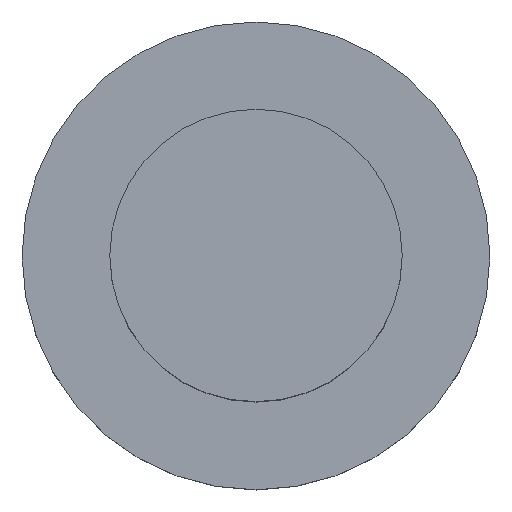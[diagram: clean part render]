
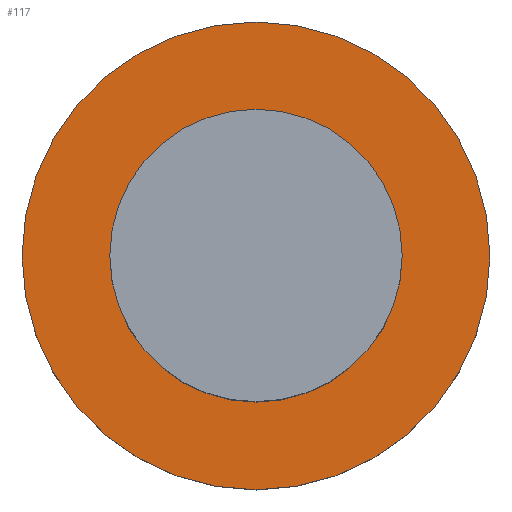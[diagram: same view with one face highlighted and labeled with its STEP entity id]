
A CAD part, top view. The second image highlights one B-rep face of the part: STEP entity #117.
In plain terms, the highlighted planar face has unit normal (0, 0, 1).
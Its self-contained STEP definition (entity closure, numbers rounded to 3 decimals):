
#24 = VERTEX_POINT('',#25);
#25 = CARTESIAN_POINT('',(-2.4,-65.,0.));
#32 = CYLINDRICAL_SURFACE('',#33,2.4);
#33 = AXIS2_PLACEMENT_3D('',#34,#35,#36);
#34 = CARTESIAN_POINT('',(0.,-65.,-0.8));
#35 = DIRECTION('',(0.,-0.,-1.));
#36 = DIRECTION('',(-1.,-0.,-0.));
#51 = EDGE_CURVE('',#24,#24,#52,.T.);
#52 = SURFACE_CURVE('',#53,(#58,#65),.PCURVE_S1.);
#53 = CIRCLE('',#54,2.4);
#54 = AXIS2_PLACEMENT_3D('',#55,#56,#57);
#55 = CARTESIAN_POINT('',(0.,-65.,0.));
#56 = DIRECTION('',(0.,0.,-1.));
#57 = DIRECTION('',(-1.,-0.,-0.));
#58 = PCURVE('',#32,#59);
#59 = DEFINITIONAL_REPRESENTATION('',(#60),#64);
#60 = LINE('',#61,#62);
#61 = CARTESIAN_POINT('',(0.,-0.8));
#62 = VECTOR('',#63,1.);
#63 = DIRECTION('',(1.,0.));
#64 = ( GEOMETRIC_REPRESENTATION_CONTEXT(2) 
PARAMETRIC_REPRESENTATION_CONTEXT() REPRESENTATION_CONTEXT('2D SPACE',''
  ) );
#65 = PCURVE('',#66,#71);
#66 = PLANE('',#67);
#67 = AXIS2_PLACEMENT_3D('',#68,#69,#70);
#68 = CARTESIAN_POINT('',(0.,-65.,0.));
#69 = DIRECTION('',(-0.,-0.,1.));
#70 = DIRECTION('',(1.,0.,0.));
#71 = DEFINITIONAL_REPRESENTATION('',(#72),#80);
#72 = ( BOUNDED_CURVE() B_SPLINE_CURVE(2,(#73,#74,#75,#76,#77,#78,#79),
.UNSPECIFIED.,.T.,.F.) B_SPLINE_CURVE_WITH_KNOTS((1,2,2,2,2,1),(
    -2.094,0.,2.094,4.189,6.283,
8.378),.UNSPECIFIED.) CURVE() GEOMETRIC_REPRESENTATION_ITEM() 
RATIONAL_B_SPLINE_CURVE((1.,0.5,1.,0.5,1.,0.5,1.)) REPRESENTATION_ITEM(
  '') );
#73 = CARTESIAN_POINT('',(-2.4,0.));
#74 = CARTESIAN_POINT('',(-2.4,4.157));
#75 = CARTESIAN_POINT('',(1.2,2.078));
#76 = CARTESIAN_POINT('',(4.8,0.));
#77 = CARTESIAN_POINT('',(1.2,-2.078));
#78 = CARTESIAN_POINT('',(-2.4,-4.157));
#79 = CARTESIAN_POINT('',(-2.4,0.));
#80 = ( GEOMETRIC_REPRESENTATION_CONTEXT(2) 
PARAMETRIC_REPRESENTATION_CONTEXT() REPRESENTATION_CONTEXT('2D SPACE',''
  ) );
#117 = ADVANCED_FACE('',(#118,#121),#66,.T.);
#118 = FACE_BOUND('',#119,.F.);
#119 = EDGE_LOOP('',(#120));
#120 = ORIENTED_EDGE('',*,*,#51,.T.);
#121 = FACE_BOUND('',#122,.F.);
#122 = EDGE_LOOP('',(#123));
#123 = ORIENTED_EDGE('',*,*,#124,.F.);
#124 = EDGE_CURVE('',#125,#125,#127,.T.);
#125 = VERTEX_POINT('',#126);
#126 = CARTESIAN_POINT('',(-1.5,-65.,0.));
#127 = SURFACE_CURVE('',#128,(#133,#144),.PCURVE_S1.);
#128 = CIRCLE('',#129,1.5);
#129 = AXIS2_PLACEMENT_3D('',#130,#131,#132);
#130 = CARTESIAN_POINT('',(0.,-65.,0.));
#131 = DIRECTION('',(0.,0.,-1.));
#132 = DIRECTION('',(-1.,-0.,-0.));
#133 = PCURVE('',#66,#134);
#134 = DEFINITIONAL_REPRESENTATION('',(#135),#143);
#135 = ( BOUNDED_CURVE() B_SPLINE_CURVE(2,(#136,#137,#138,#139,#140,#141
,#142),.UNSPECIFIED.,.T.,.F.) B_SPLINE_CURVE_WITH_KNOTS((1,2,2,2,2,1),(
    -2.094,0.,2.094,4.189,6.283,
8.378),.UNSPECIFIED.) CURVE() GEOMETRIC_REPRESENTATION_ITEM() 
RATIONAL_B_SPLINE_CURVE((1.,0.5,1.,0.5,1.,0.5,1.)) REPRESENTATION_ITEM(
  '') );
#136 = CARTESIAN_POINT('',(-1.5,0.));
#137 = CARTESIAN_POINT('',(-1.5,2.598));
#138 = CARTESIAN_POINT('',(0.75,1.299));
#139 = CARTESIAN_POINT('',(3.,0.));
#140 = CARTESIAN_POINT('',(0.75,-1.299));
#141 = CARTESIAN_POINT('',(-1.5,-2.598));
#142 = CARTESIAN_POINT('',(-1.5,0.));
#143 = ( GEOMETRIC_REPRESENTATION_CONTEXT(2) 
PARAMETRIC_REPRESENTATION_CONTEXT() REPRESENTATION_CONTEXT('2D SPACE',''
  ) );
#144 = PCURVE('',#145,#150);
#145 = CYLINDRICAL_SURFACE('',#146,1.5);
#146 = AXIS2_PLACEMENT_3D('',#147,#148,#149);
#147 = CARTESIAN_POINT('',(0.,-65.,0.));
#148 = DIRECTION('',(0.,-0.,-1.));
#149 = DIRECTION('',(-1.,-0.,-0.));
#150 = DEFINITIONAL_REPRESENTATION('',(#151),#155);
#151 = LINE('',#152,#153);
#152 = CARTESIAN_POINT('',(0.,0.));
#153 = VECTOR('',#154,1.);
#154 = DIRECTION('',(1.,0.));
#155 = ( GEOMETRIC_REPRESENTATION_CONTEXT(2) 
PARAMETRIC_REPRESENTATION_CONTEXT() REPRESENTATION_CONTEXT('2D SPACE',''
  ) );
